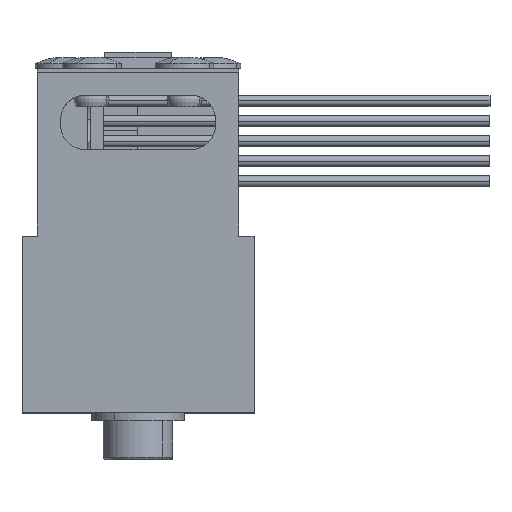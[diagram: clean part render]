
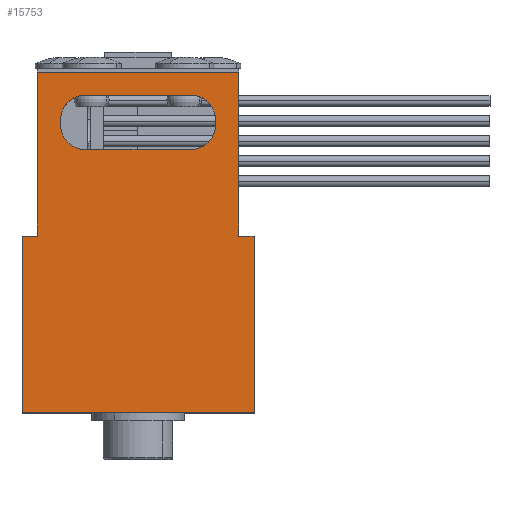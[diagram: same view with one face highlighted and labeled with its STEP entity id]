
A CAD part, top view. The second image highlights one B-rep face of the part: STEP entity #15753.
In plain terms, the highlighted planar face has unit normal (0, 0, 1).
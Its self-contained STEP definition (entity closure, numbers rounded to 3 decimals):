
#793 = DIRECTION ( 'NONE',  ( -1., 0., 0. ) ) ;
#944 = CARTESIAN_POINT ( 'NONE',  ( -5., 20.5, 21. ) ) ;
#1545 = VECTOR ( 'NONE', #793, 1000. ) ;
#2003 = LINE ( 'NONE', #13042, #20949 ) ;
#2144 = CARTESIAN_POINT ( 'NONE',  ( -6.5, 11.4, 21. ) ) ;
#2275 = CARTESIAN_POINT ( 'NONE',  ( -7.5, 11.4, 21. ) ) ;
#2280 = VECTOR ( 'NONE', #14619, 1000. ) ;
#2698 = LINE ( 'NONE', #22804, #1545 ) ;
#2733 = CARTESIAN_POINT ( 'NONE',  ( 7.5, 0., 21. ) ) ;
#2745 = CIRCLE ( 'NONE', #18040, 1.55 ) ;
#2846 = DIRECTION ( 'NONE',  ( 0., 0., -1. ) ) ;
#2896 = CARTESIAN_POINT ( 'NONE',  ( -3.45, 20.5, 21. ) ) ;
#2944 = EDGE_CURVE ( 'NONE', #7273, #15534, #11823, .T. ) ;
#3005 = VECTOR ( 'NONE', #9316, 1000. ) ;
#3075 = DIRECTION ( 'NONE',  ( 0., 1., 0. ) ) ;
#3080 = AXIS2_PLACEMENT_3D ( 'NONE', #6273, #19118, #8142 ) ;
#3367 = DIRECTION ( 'NONE',  ( 1., 0., 0. ) ) ;
#3413 = ORIENTED_EDGE ( 'NONE', *, *, #17077, .T. ) ;
#3429 = LINE ( 'NONE', #944, #18063 ) ;
#3627 = CARTESIAN_POINT ( 'NONE',  ( -6.5, 11.4, 21. ) ) ;
#3693 = ORIENTED_EDGE ( 'NONE', *, *, #14038, .T. ) ;
#3793 = ORIENTED_EDGE ( 'NONE', *, *, #17248, .F. ) ;
#4944 = VERTEX_POINT ( 'NONE', #2896 ) ;
#5205 = ORIENTED_EDGE ( 'NONE', *, *, #20365, .T. ) ;
#5273 = CARTESIAN_POINT ( 'NONE',  ( 6.5, 11.4, 21. ) ) ;
#5663 = DIRECTION ( 'NONE',  ( 0., 0., -1. ) ) ;
#5790 = ORIENTED_EDGE ( 'NONE', *, *, #23263, .T. ) ;
#5965 = CARTESIAN_POINT ( 'NONE',  ( -5., 18.55, 21. ) ) ;
#5968 = CARTESIAN_POINT ( 'NONE',  ( 6.5, 11.4, 21. ) ) ;
#5984 = AXIS2_PLACEMENT_3D ( 'NONE', #16646, #5663, #18506 ) ;
#6082 = ORIENTED_EDGE ( 'NONE', *, *, #23690, .T. ) ;
#6273 = CARTESIAN_POINT ( 'NONE',  ( -3.45, 18.55, 21. ) ) ;
#6452 = CARTESIAN_POINT ( 'NONE',  ( 5., 18.95, 21. ) ) ;
#6581 = VERTEX_POINT ( 'NONE', #21165 ) ;
#7011 = CIRCLE ( 'NONE', #3080, 1.55 ) ;
#7053 = EDGE_CURVE ( 'NONE', #7273, #8901, #11484, .T. ) ;
#7226 = EDGE_LOOP ( 'NONE', ( #21154, #19345, #20124, #3413, #3693, #19218, #18009, #5790 ) ) ;
#7273 = VERTEX_POINT ( 'NONE', #9046 ) ;
#7340 = DIRECTION ( 'NONE',  ( 0., 0., -1. ) ) ;
#7392 = VECTOR ( 'NONE', #10821, 1000. ) ;
#7487 = CIRCLE ( 'NONE', #5984, 1.55 ) ;
#7960 = CARTESIAN_POINT ( 'NONE',  ( -5., 20.5, 21. ) ) ;
#7976 = LINE ( 'NONE', #23661, #22593 ) ;
#8043 = EDGE_CURVE ( 'NONE', #17863, #17885, #7011, .T. ) ;
#8072 = EDGE_CURVE ( 'NONE', #11661, #12394, #2698, .T. ) ;
#8142 = DIRECTION ( 'NONE',  ( -1., 0., 0. ) ) ;
#8329 = EDGE_CURVE ( 'NONE', #17863, #8901, #15897, .T. ) ;
#8562 = VERTEX_POINT ( 'NONE', #11458 ) ;
#8753 = VECTOR ( 'NONE', #9784, 1000. ) ;
#8901 = VERTEX_POINT ( 'NONE', #17775 ) ;
#9026 = DIRECTION ( 'NONE',  ( 0., 0., -1. ) ) ;
#9032 = CARTESIAN_POINT ( 'NONE',  ( 7.5, 0., 21. ) ) ;
#9046 = CARTESIAN_POINT ( 'NONE',  ( 5., 18.55, 21. ) ) ;
#9072 = VERTEX_POINT ( 'NONE', #18937 ) ;
#9153 = VERTEX_POINT ( 'NONE', #2733 ) ;
#9316 = DIRECTION ( 'NONE',  ( -1., 0., 0. ) ) ;
#9537 = ORIENTED_EDGE ( 'NONE', *, *, #2944, .F. ) ;
#9547 = EDGE_CURVE ( 'NONE', #12394, #15255, #18399, .T. ) ;
#9784 = DIRECTION ( 'NONE',  ( 0., -1., 0. ) ) ;
#9829 = DIRECTION ( 'NONE',  ( 1., 0., 0. ) ) ;
#10291 = VERTEX_POINT ( 'NONE', #5968 ) ;
#10567 = ORIENTED_EDGE ( 'NONE', *, *, #8043, .T. ) ;
#10821 = DIRECTION ( 'NONE',  ( -1., 0., 0. ) ) ;
#11013 = VECTOR ( 'NONE', #3367, 1000. ) ;
#11343 = ORIENTED_EDGE ( 'NONE', *, *, #7053, .T. ) ;
#11419 = CARTESIAN_POINT ( 'NONE',  ( -3.45, 17., 21. ) ) ;
#11458 = CARTESIAN_POINT ( 'NONE',  ( -6.5, 22., 21. ) ) ;
#11484 = CIRCLE ( 'NONE', #20115, 1.55 ) ;
#11661 = VERTEX_POINT ( 'NONE', #2144 ) ;
#11823 = LINE ( 'NONE', #21443, #16701 ) ;
#12394 = VERTEX_POINT ( 'NONE', #2275 ) ;
#12434 = CARTESIAN_POINT ( 'NONE',  ( 7.5, 11.4, 21. ) ) ;
#12524 = FACE_BOUND ( 'NONE', #18980, .T. ) ;
#12755 = LINE ( 'NONE', #18422, #3005 ) ;
#13042 = CARTESIAN_POINT ( 'NONE',  ( 7.5, 11.4, 21. ) ) ;
#13139 = DIRECTION ( 'NONE',  ( 0., -1., 0. ) ) ;
#13518 = VECTOR ( 'NONE', #13139, 1000. ) ;
#13733 = CARTESIAN_POINT ( 'NONE',  ( 3.45, 20.5, 21. ) ) ;
#13766 = DIRECTION ( 'NONE',  ( -1., 0., 0. ) ) ;
#13839 = CARTESIAN_POINT ( 'NONE',  ( 3.45, 18.55, 21. ) ) ;
#14038 = EDGE_CURVE ( 'NONE', #8562, #11661, #16910, .T. ) ;
#14225 = LINE ( 'NONE', #18953, #23399 ) ;
#14619 = DIRECTION ( 'NONE',  ( 0., -1., 0. ) ) ;
#15255 = VERTEX_POINT ( 'NONE', #22181 ) ;
#15265 = ORIENTED_EDGE ( 'NONE', *, *, #20604, .F. ) ;
#15534 = VERTEX_POINT ( 'NONE', #6452 ) ;
#15696 = DIRECTION ( 'NONE',  ( -1., 0., 0. ) ) ;
#15753 = ADVANCED_FACE ( 'NONE', ( #12524, #20296 ), #18292, .F. ) ;
#15897 = LINE ( 'NONE', #21667, #11013 ) ;
#16646 = CARTESIAN_POINT ( 'NONE',  ( -3.45, 18.95, 21. ) ) ;
#16701 = VECTOR ( 'NONE', #3075, 1000. ) ;
#16910 = LINE ( 'NONE', #3627, #2280 ) ;
#17073 = AXIS2_PLACEMENT_3D ( 'NONE', #9032, #7340, #20148 ) ;
#17077 = EDGE_CURVE ( 'NONE', #9072, #8562, #12755, .T. ) ;
#17138 = LINE ( 'NONE', #5273, #7392 ) ;
#17248 = EDGE_CURVE ( 'NONE', #6581, #17885, #23370, .T. ) ;
#17775 = CARTESIAN_POINT ( 'NONE',  ( 3.45, 17., 21. ) ) ;
#17863 = VERTEX_POINT ( 'NONE', #11419 ) ;
#17885 = VERTEX_POINT ( 'NONE', #5965 ) ;
#18009 = ORIENTED_EDGE ( 'NONE', *, *, #9547, .T. ) ;
#18037 = VERTEX_POINT ( 'NONE', #13733 ) ;
#18040 = AXIS2_PLACEMENT_3D ( 'NONE', #19989, #9026, #21818 ) ;
#18063 = VECTOR ( 'NONE', #13766, 1000. ) ;
#18101 = DIRECTION ( 'NONE',  ( 0., 1., 0. ) ) ;
#18292 = PLANE ( 'NONE',  #17073 ) ;
#18399 = LINE ( 'NONE', #18593, #13518 ) ;
#18422 = CARTESIAN_POINT ( 'NONE',  ( -6.5, 22., 21. ) ) ;
#18506 = DIRECTION ( 'NONE',  ( -1., 0., 0. ) ) ;
#18593 = CARTESIAN_POINT ( 'NONE',  ( -7.5, 0., 21. ) ) ;
#18650 = DIRECTION ( 'NONE',  ( 0., 1., 0. ) ) ;
#18937 = CARTESIAN_POINT ( 'NONE',  ( 6.5, 22., 21. ) ) ;
#18953 = CARTESIAN_POINT ( 'NONE',  ( 7.5, 0., 21. ) ) ;
#18956 = VERTEX_POINT ( 'NONE', #12434 ) ;
#18980 = EDGE_LOOP ( 'NONE', ( #22097, #10567, #3793, #5205, #15265, #6082, #9537, #11343 ) ) ;
#19118 = DIRECTION ( 'NONE',  ( 0., 0., -1. ) ) ;
#19218 = ORIENTED_EDGE ( 'NONE', *, *, #8072, .T. ) ;
#19345 = ORIENTED_EDGE ( 'NONE', *, *, #22324, .T. ) ;
#19711 = EDGE_CURVE ( 'NONE', #9153, #18956, #2003, .T. ) ;
#19989 = CARTESIAN_POINT ( 'NONE',  ( 3.45, 18.95, 21. ) ) ;
#20115 = AXIS2_PLACEMENT_3D ( 'NONE', #13839, #2846, #15696 ) ;
#20124 = ORIENTED_EDGE ( 'NONE', *, *, #22327, .T. ) ;
#20148 = DIRECTION ( 'NONE',  ( -1., 0., 0. ) ) ;
#20296 = FACE_OUTER_BOUND ( 'NONE', #7226, .T. ) ;
#20365 = EDGE_CURVE ( 'NONE', #6581, #4944, #7487, .T. ) ;
#20604 = EDGE_CURVE ( 'NONE', #18037, #4944, #3429, .T. ) ;
#20949 = VECTOR ( 'NONE', #18650, 1000. ) ;
#21154 = ORIENTED_EDGE ( 'NONE', *, *, #19711, .T. ) ;
#21165 = CARTESIAN_POINT ( 'NONE',  ( -5., 18.95, 21. ) ) ;
#21443 = CARTESIAN_POINT ( 'NONE',  ( 5., 20.5, 21. ) ) ;
#21667 = CARTESIAN_POINT ( 'NONE',  ( -5., 17., 21. ) ) ;
#21818 = DIRECTION ( 'NONE',  ( -1., 0., 0. ) ) ;
#22097 = ORIENTED_EDGE ( 'NONE', *, *, #8329, .F. ) ;
#22181 = CARTESIAN_POINT ( 'NONE',  ( -7.5, 0., 21. ) ) ;
#22324 = EDGE_CURVE ( 'NONE', #18956, #10291, #17138, .T. ) ;
#22327 = EDGE_CURVE ( 'NONE', #10291, #9072, #7976, .T. ) ;
#22593 = VECTOR ( 'NONE', #18101, 1000. ) ;
#22804 = CARTESIAN_POINT ( 'NONE',  ( -7.5, 11.4, 21. ) ) ;
#23263 = EDGE_CURVE ( 'NONE', #15255, #9153, #14225, .T. ) ;
#23370 = LINE ( 'NONE', #7960, #8753 ) ;
#23399 = VECTOR ( 'NONE', #9829, 1000. ) ;
#23661 = CARTESIAN_POINT ( 'NONE',  ( 6.5, 22., 21. ) ) ;
#23690 = EDGE_CURVE ( 'NONE', #18037, #15534, #2745, .T. ) ;
